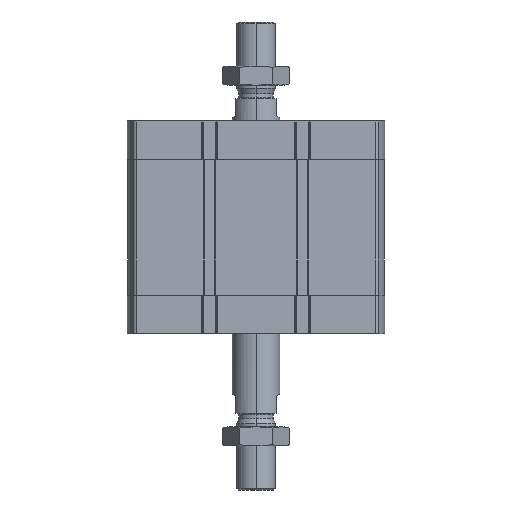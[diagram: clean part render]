
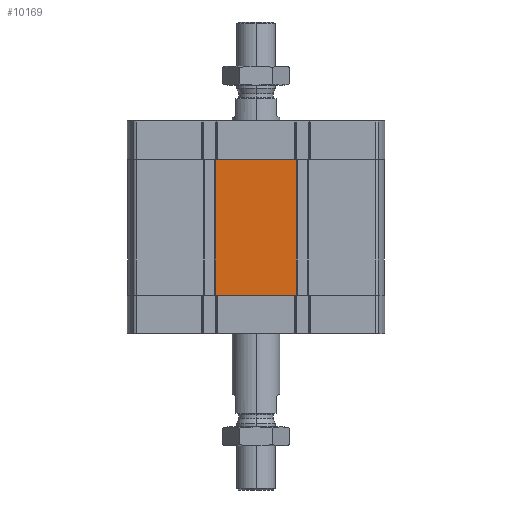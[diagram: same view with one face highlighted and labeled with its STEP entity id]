
A CAD part, left-side view. The second image highlights one B-rep face of the part: STEP entity #10169.
In plain terms, the highlighted planar face has unit normal (-1, 0, 0).
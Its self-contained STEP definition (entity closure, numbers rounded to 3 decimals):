
#348 = VECTOR ( 'NONE', #1797, 1000. ) ;
#835 = VERTEX_POINT ( 'NONE', #9853 ) ;
#1149 = VERTEX_POINT ( 'NONE', #5186 ) ;
#1328 = VECTOR ( 'NONE', #6014, 1000. ) ;
#1797 = DIRECTION ( 'NONE',  ( 0., 0., 1. ) ) ;
#2056 = EDGE_CURVE ( 'NONE', #9949, #835, #8699, .T. ) ;
#2318 = LINE ( 'NONE', #8357, #3578 ) ;
#2453 = EDGE_CURVE ( 'NONE', #4899, #4313, #3291, .T. ) ;
#3198 = VECTOR ( 'NONE', #19447, 1000. ) ;
#3207 = DIRECTION ( 'NONE',  ( 0., -1., 0. ) ) ;
#3241 = CARTESIAN_POINT ( 'NONE',  ( -67., 20.687, -91. ) ) ;
#3291 = LINE ( 'NONE', #6162, #348 ) ;
#3311 = EDGE_LOOP ( 'NONE', ( #5089, #6419, #19081, #12991, #12449, #9049, #8883, #12111 ) ) ;
#3578 = VECTOR ( 'NONE', #6481, 1000. ) ;
#3761 = LINE ( 'NONE', #9785, #13312 ) ;
#3859 = CARTESIAN_POINT ( 'NONE',  ( -67., -20.687, -20. ) ) ;
#4261 = EDGE_CURVE ( 'NONE', #1149, #18878, #2318, .T. ) ;
#4313 = VERTEX_POINT ( 'NONE', #17175 ) ;
#4899 = VERTEX_POINT ( 'NONE', #8509 ) ;
#5089 = ORIENTED_EDGE ( 'NONE', *, *, #2453, .F. ) ;
#5186 = CARTESIAN_POINT ( 'NONE',  ( -67., -20.687, -91. ) ) ;
#5819 = VECTOR ( 'NONE', #3207, 1000. ) ;
#5837 = CARTESIAN_POINT ( 'NONE',  ( -67., 67., -91. ) ) ;
#6014 = DIRECTION ( 'NONE',  ( 0., -1., 0. ) ) ;
#6162 = CARTESIAN_POINT ( 'NONE',  ( -67., 21.3, -91. ) ) ;
#6291 = EDGE_CURVE ( 'NONE', #12941, #9949, #19407, .T. ) ;
#6316 = VERTEX_POINT ( 'NONE', #3241 ) ;
#6335 = VECTOR ( 'NONE', #17823, 1000. ) ;
#6369 = LINE ( 'NONE', #10726, #5819 ) ;
#6419 = ORIENTED_EDGE ( 'NONE', *, *, #7869, .T. ) ;
#6481 = DIRECTION ( 'NONE',  ( 0., -1., 0. ) ) ;
#7083 = CARTESIAN_POINT ( 'NONE',  ( -67., 67., -20. ) ) ;
#7308 = FACE_OUTER_BOUND ( 'NONE', #3311, .T. ) ;
#7450 = CARTESIAN_POINT ( 'NONE',  ( -67., -21.3, -91. ) ) ;
#7588 = DIRECTION ( 'NONE',  ( 0., 0., 1. ) ) ;
#7869 = EDGE_CURVE ( 'NONE', #4899, #6316, #6369, .T. ) ;
#8125 = EDGE_CURVE ( 'NONE', #18878, #835, #10618, .T. ) ;
#8357 = CARTESIAN_POINT ( 'NONE',  ( -67., 67., -91. ) ) ;
#8509 = CARTESIAN_POINT ( 'NONE',  ( -67., 21.3, -91. ) ) ;
#8699 = LINE ( 'NONE', #19113, #6335 ) ;
#8883 = ORIENTED_EDGE ( 'NONE', *, *, #6291, .F. ) ;
#9049 = ORIENTED_EDGE ( 'NONE', *, *, #2056, .F. ) ;
#9785 = CARTESIAN_POINT ( 'NONE',  ( -67., 21.3, -91. ) ) ;
#9853 = CARTESIAN_POINT ( 'NONE',  ( -67., -21.3, -20. ) ) ;
#9949 = VERTEX_POINT ( 'NONE', #3859 ) ;
#9976 = AXIS2_PLACEMENT_3D ( 'NONE', #5837, #11859, #7588 ) ;
#10169 = ADVANCED_FACE ( 'NONE', ( #7308 ), #19406, .T. ) ;
#10618 = LINE ( 'NONE', #7450, #3198 ) ;
#10669 = CARTESIAN_POINT ( 'NONE',  ( -67., 21.3, -20. ) ) ;
#10726 = CARTESIAN_POINT ( 'NONE',  ( -67., 67., -91. ) ) ;
#10985 = CARTESIAN_POINT ( 'NONE',  ( -67., 20.687, -20. ) ) ;
#11328 = EDGE_CURVE ( 'NONE', #4313, #12941, #11704, .T. ) ;
#11704 = LINE ( 'NONE', #7083, #15189 ) ;
#11859 = DIRECTION ( 'NONE',  ( -1., 0., 0. ) ) ;
#12007 = EDGE_CURVE ( 'NONE', #6316, #1149, #3761, .T. ) ;
#12111 = ORIENTED_EDGE ( 'NONE', *, *, #11328, .F. ) ;
#12449 = ORIENTED_EDGE ( 'NONE', *, *, #8125, .T. ) ;
#12941 = VERTEX_POINT ( 'NONE', #10985 ) ;
#12991 = ORIENTED_EDGE ( 'NONE', *, *, #4261, .T. ) ;
#13312 = VECTOR ( 'NONE', #15835, 1000. ) ;
#15189 = VECTOR ( 'NONE', #17592, 1000. ) ;
#15835 = DIRECTION ( 'NONE',  ( 0., -1., 0. ) ) ;
#16708 = CARTESIAN_POINT ( 'NONE',  ( -67., -21.3, -91. ) ) ;
#17175 = CARTESIAN_POINT ( 'NONE',  ( -67., 21.3, -20. ) ) ;
#17592 = DIRECTION ( 'NONE',  ( 0., -1., 0. ) ) ;
#17823 = DIRECTION ( 'NONE',  ( 0., -1., 0. ) ) ;
#18878 = VERTEX_POINT ( 'NONE', #16708 ) ;
#19081 = ORIENTED_EDGE ( 'NONE', *, *, #12007, .T. ) ;
#19113 = CARTESIAN_POINT ( 'NONE',  ( -67., 67., -20. ) ) ;
#19406 = PLANE ( 'NONE',  #9976 ) ;
#19407 = LINE ( 'NONE', #10669, #1328 ) ;
#19447 = DIRECTION ( 'NONE',  ( 0., 0., 1. ) ) ;
